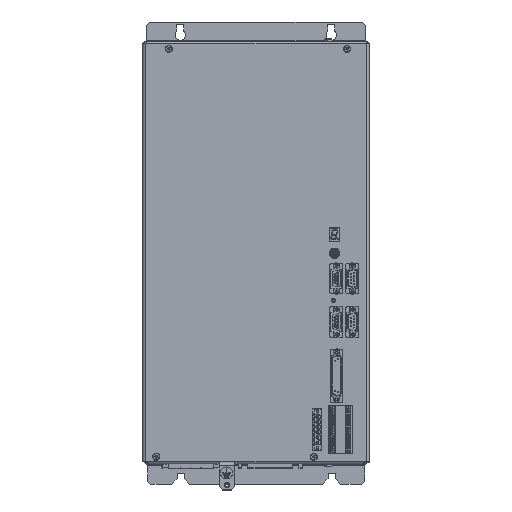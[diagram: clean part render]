
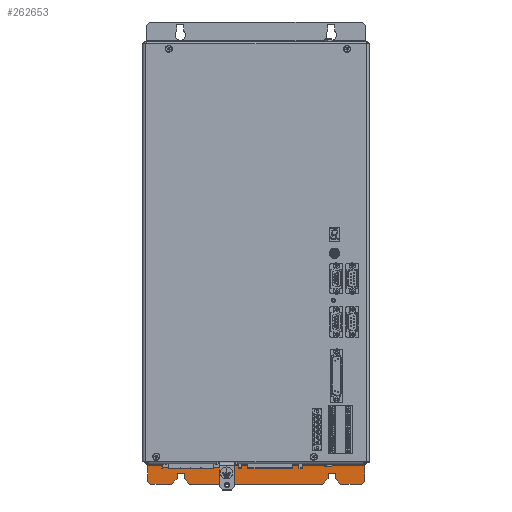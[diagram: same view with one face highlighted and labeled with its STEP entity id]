
A CAD part, top view. The second image highlights one B-rep face of the part: STEP entity #262653.
In plain terms, the highlighted planar face has unit normal (0, 0, 1).
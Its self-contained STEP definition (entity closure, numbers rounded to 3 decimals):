
#60 = ORIENTED_EDGE ( 'NONE', *, *, #218395, .T. ) ;
#252 = VECTOR ( 'NONE', #40938, 1000. ) ;
#3798 = CARTESIAN_POINT ( 'NONE',  ( 140.25, -9.5, -197.5 ) ) ;
#7183 = LINE ( 'NONE', #38119, #252 ) ;
#9554 = CARTESIAN_POINT ( 'NONE',  ( 169.5, 0., -197.5 ) ) ;
#11434 = DIRECTION ( 'NONE',  ( 0.707, 0.707, 0. ) ) ;
#11621 = VECTOR ( 'NONE', #191598, 1000. ) ;
#12050 = CARTESIAN_POINT ( 'NONE',  ( 133.25, -9.5, -197.5 ) ) ;
#14487 = EDGE_CURVE ( 'NONE', #247309, #71692, #7183, .T. ) ;
#14851 = CARTESIAN_POINT ( 'NONE',  ( -9.75, -14.5, -197.5 ) ) ;
#16274 = DIRECTION ( 'NONE',  ( -0.707, 0.707, 0. ) ) ;
#18426 = CARTESIAN_POINT ( 'NONE',  ( 140.25, -14.5, -197.5 ) ) ;
#21424 = VERTEX_POINT ( 'NONE', #12050 ) ;
#21510 = EDGE_CURVE ( 'NONE', #26766, #67197, #261189, .T. ) ;
#22474 = CARTESIAN_POINT ( 'NONE',  ( 165.5, -20., -197.5 ) ) ;
#24473 = EDGE_CURVE ( 'NONE', #84376, #127111, #142752, .T. ) ;
#25822 = DIRECTION ( 'NONE',  ( 0., 1., 0. ) ) ;
#25970 = ORIENTED_EDGE ( 'NONE', *, *, #132665, .F. ) ;
#26766 = VERTEX_POINT ( 'NONE', #139383 ) ;
#27371 = ORIENTED_EDGE ( 'NONE', *, *, #273006, .T. ) ;
#34828 = DIRECTION ( 'NONE',  ( 0., -1., 0. ) ) ;
#38119 = CARTESIAN_POINT ( 'NONE',  ( -16.75, -14.5, -197.5 ) ) ;
#39038 = LINE ( 'NONE', #253633, #80468 ) ;
#40938 = DIRECTION ( 'NONE',  ( -0.707, -0.707, 0. ) ) ;
#44551 = LINE ( 'NONE', #9554, #154741 ) ;
#44787 = LINE ( 'NONE', #209052, #165267 ) ;
#46478 = VECTOR ( 'NONE', #11434, 1000. ) ;
#50572 = LINE ( 'NONE', #18426, #261229 ) ;
#54464 = VECTOR ( 'NONE', #16274, 1000. ) ;
#57371 = LINE ( 'NONE', #135441, #191532 ) ;
#57497 = EDGE_CURVE ( 'NONE', #117824, #252485, #180083, .T. ) ;
#58237 = EDGE_CURVE ( 'NONE', #117824, #282847, #264597, .T. ) ;
#59131 = DIRECTION ( 'NONE',  ( 0., 1., 0. ) ) ;
#59720 = VECTOR ( 'NONE', #134930, 1000. ) ;
#62190 = LINE ( 'NONE', #3798, #110354 ) ;
#63554 = CARTESIAN_POINT ( 'NONE',  ( -16.75, -9.5, -197.5 ) ) ;
#67197 = VERTEX_POINT ( 'NONE', #101850 ) ;
#71692 = VERTEX_POINT ( 'NONE', #94561 ) ;
#74511 = CARTESIAN_POINT ( 'NONE',  ( -9.75, -9.5, -197.5 ) ) ;
#75486 = CARTESIAN_POINT ( 'NONE',  ( -9.75, -9.5, -197.5 ) ) ;
#77122 = DIRECTION ( 'NONE',  ( 0., -1., 0. ) ) ;
#79330 = CARTESIAN_POINT ( 'NONE',  ( 140.25, -9.5, -197.5 ) ) ;
#79456 = DIRECTION ( 'NONE',  ( 1., 0., 0. ) ) ;
#80468 = VECTOR ( 'NONE', #34828, 1000. ) ;
#84376 = VERTEX_POINT ( 'NONE', #156582 ) ;
#85890 = LINE ( 'NONE', #147606, #275803 ) ;
#92542 = CARTESIAN_POINT ( 'NONE',  ( -46.946, -1.5, -197.5 ) ) ;
#94561 = CARTESIAN_POINT ( 'NONE',  ( -22.25, -20., -197.5 ) ) ;
#98858 = CARTESIAN_POINT ( 'NONE',  ( 169.5, -17., -197.5 ) ) ;
#99346 = ORIENTED_EDGE ( 'NONE', *, *, #258785, .F. ) ;
#101850 = CARTESIAN_POINT ( 'NONE',  ( 140.25, -14.5, -197.5 ) ) ;
#106565 = CARTESIAN_POINT ( 'NONE',  ( 133.25, -14.5, -197.5 ) ) ;
#106747 = CARTESIAN_POINT ( 'NONE',  ( 165.5, -20., -197.5 ) ) ;
#107262 = ORIENTED_EDGE ( 'NONE', *, *, #188071, .F. ) ;
#107775 = AXIS2_PLACEMENT_3D ( 'NONE', #215146, #191910, #169786 ) ;
#109023 = CARTESIAN_POINT ( 'NONE',  ( 133.25, -14.5, -197.5 ) ) ;
#110354 = VECTOR ( 'NONE', #242757, 1000. ) ;
#113975 = LINE ( 'NONE', #208121, #210607 ) ;
#114663 = EDGE_CURVE ( 'NONE', #117497, #281278, #243362, .T. ) ;
#116091 = ORIENTED_EDGE ( 'NONE', *, *, #239723, .T. ) ;
#117497 = VERTEX_POINT ( 'NONE', #74511 ) ;
#117798 = FACE_OUTER_BOUND ( 'NONE', #176356, .T. ) ;
#117824 = VERTEX_POINT ( 'NONE', #155008 ) ;
#124127 = VERTEX_POINT ( 'NONE', #255870 ) ;
#124444 = ORIENTED_EDGE ( 'NONE', *, *, #21510, .F. ) ;
#127111 = VERTEX_POINT ( 'NONE', #98858 ) ;
#130864 = DIRECTION ( 'NONE',  ( 0., 1., 0. ) ) ;
#131577 = ORIENTED_EDGE ( 'NONE', *, *, #178750, .F. ) ;
#132665 = EDGE_CURVE ( 'NONE', #220509, #137351, #57371, .T. ) ;
#134930 = DIRECTION ( 'NONE',  ( 1., 0., 0. ) ) ;
#135441 = CARTESIAN_POINT ( 'NONE',  ( -46., -20., -197.5 ) ) ;
#137238 = LINE ( 'NONE', #92542, #189001 ) ;
#137351 = VERTEX_POINT ( 'NONE', #174926 ) ;
#139383 = CARTESIAN_POINT ( 'NONE',  ( 145.75, -20., -197.5 ) ) ;
#142752 = LINE ( 'NONE', #160600, #46478 ) ;
#147606 = CARTESIAN_POINT ( 'NONE',  ( 165.5, -20., -197.5 ) ) ;
#150370 = ORIENTED_EDGE ( 'NONE', *, *, #24473, .T. ) ;
#150649 = VERTEX_POINT ( 'NONE', #106565 ) ;
#152609 = LINE ( 'NONE', #106747, #11621 ) ;
#154741 = VECTOR ( 'NONE', #164474, 1000. ) ;
#155008 = CARTESIAN_POINT ( 'NONE',  ( -4.25, -20., -197.5 ) ) ;
#156582 = CARTESIAN_POINT ( 'NONE',  ( 166.5, -20., -197.5 ) ) ;
#159324 = VECTOR ( 'NONE', #59131, 1000. ) ;
#160105 = LINE ( 'NONE', #109023, #225772 ) ;
#160462 = EDGE_CURVE ( 'NONE', #150649, #252485, #160105, .T. ) ;
#160600 = CARTESIAN_POINT ( 'NONE',  ( 166.5, -20., -197.5 ) ) ;
#163554 = ORIENTED_EDGE ( 'NONE', *, *, #163681, .T. ) ;
#163681 = EDGE_CURVE ( 'NONE', #26766, #84376, #85890, .T. ) ;
#163976 = DIRECTION ( 'NONE',  ( -1., 0., 0. ) ) ;
#164474 = DIRECTION ( 'NONE',  ( 0., 1., 0. ) ) ;
#164566 = ORIENTED_EDGE ( 'NONE', *, *, #14487, .F. ) ;
#165267 = VECTOR ( 'NONE', #277569, 1000. ) ;
#169786 = DIRECTION ( 'NONE',  ( 0., 1., 0. ) ) ;
#171667 = PLANE ( 'NONE',  #107775 ) ;
#173364 = EDGE_CURVE ( 'NONE', #137351, #124127, #137238, .T. ) ;
#174926 = CARTESIAN_POINT ( 'NONE',  ( -46., -1.5, -197.5 ) ) ;
#176045 = ORIENTED_EDGE ( 'NONE', *, *, #160462, .F. ) ;
#176356 = EDGE_LOOP ( 'NONE', ( #163554, #150370, #60, #285199, #25970, #116091, #27371, #164566, #131577, #277553, #107262, #188826, #210766, #176045, #197309, #99346, #276255, #124444 ) ) ;
#178207 = CARTESIAN_POINT ( 'NONE',  ( 145.75, -20., -197.5 ) ) ;
#178750 = EDGE_CURVE ( 'NONE', #281278, #247309, #39038, .T. ) ;
#180083 = LINE ( 'NONE', #22474, #59720 ) ;
#181251 = VECTOR ( 'NONE', #163976, 1000. ) ;
#188071 = EDGE_CURVE ( 'NONE', #282847, #117497, #235267, .T. ) ;
#188826 = ORIENTED_EDGE ( 'NONE', *, *, #58237, .F. ) ;
#189001 = VECTOR ( 'NONE', #189413, 1000. ) ;
#189413 = DIRECTION ( 'NONE',  ( 1., 0., 0. ) ) ;
#191532 = VECTOR ( 'NONE', #25822, 1000. ) ;
#191598 = DIRECTION ( 'NONE',  ( 1., 0., 0. ) ) ;
#191910 = DIRECTION ( 'NONE',  ( 0., 0., -1. ) ) ;
#197309 = ORIENTED_EDGE ( 'NONE', *, *, #267688, .F. ) ;
#201689 = CARTESIAN_POINT ( 'NONE',  ( -46., -17., -197.5 ) ) ;
#206130 = CARTESIAN_POINT ( 'NONE',  ( -9.75, -14.5, -197.5 ) ) ;
#207915 = DIRECTION ( 'NONE',  ( -0.707, 0.707, 0. ) ) ;
#208121 = CARTESIAN_POINT ( 'NONE',  ( 133.25, -9.5, -197.5 ) ) ;
#209052 = CARTESIAN_POINT ( 'NONE',  ( -43., -20., -197.5 ) ) ;
#210607 = VECTOR ( 'NONE', #77122, 1000. ) ;
#210766 = ORIENTED_EDGE ( 'NONE', *, *, #57497, .T. ) ;
#215146 = CARTESIAN_POINT ( 'NONE',  ( 165.5, 0., -197.5 ) ) ;
#218395 = EDGE_CURVE ( 'NONE', #127111, #124127, #44551, .T. ) ;
#218979 = CARTESIAN_POINT ( 'NONE',  ( -16.75, -14.5, -197.5 ) ) ;
#220509 = VERTEX_POINT ( 'NONE', #201689 ) ;
#225772 = VECTOR ( 'NONE', #237420, 1000. ) ;
#226812 = VERTEX_POINT ( 'NONE', #269053 ) ;
#229149 = CARTESIAN_POINT ( 'NONE',  ( -4.25, -20., -197.5 ) ) ;
#235267 = LINE ( 'NONE', #14851, #159324 ) ;
#237026 = VECTOR ( 'NONE', #207915, 1000. ) ;
#237420 = DIRECTION ( 'NONE',  ( -0.707, -0.707, 0. ) ) ;
#239222 = VERTEX_POINT ( 'NONE', #79330 ) ;
#239723 = EDGE_CURVE ( 'NONE', #220509, #226812, #44787, .T. ) ;
#242757 = DIRECTION ( 'NONE',  ( -1., 0., 0. ) ) ;
#243362 = LINE ( 'NONE', #75486, #181251 ) ;
#247309 = VERTEX_POINT ( 'NONE', #218979 ) ;
#252485 = VERTEX_POINT ( 'NONE', #270209 ) ;
#253633 = CARTESIAN_POINT ( 'NONE',  ( -16.75, -9.5, -197.5 ) ) ;
#255870 = CARTESIAN_POINT ( 'NONE',  ( 169.5, -1.5, -197.5 ) ) ;
#258785 = EDGE_CURVE ( 'NONE', #239222, #21424, #62190, .T. ) ;
#261189 = LINE ( 'NONE', #178207, #54464 ) ;
#261229 = VECTOR ( 'NONE', #130864, 1000. ) ;
#262653 = ADVANCED_FACE ( 'NONE', ( #117798 ), #171667, .F. ) ;
#264597 = LINE ( 'NONE', #229149, #237026 ) ;
#267688 = EDGE_CURVE ( 'NONE', #21424, #150649, #113975, .T. ) ;
#269053 = CARTESIAN_POINT ( 'NONE',  ( -43., -20., -197.5 ) ) ;
#270209 = CARTESIAN_POINT ( 'NONE',  ( 127.75, -20., -197.5 ) ) ;
#273006 = EDGE_CURVE ( 'NONE', #226812, #71692, #152609, .T. ) ;
#275803 = VECTOR ( 'NONE', #79456, 1000. ) ;
#276255 = ORIENTED_EDGE ( 'NONE', *, *, #284888, .F. ) ;
#277553 = ORIENTED_EDGE ( 'NONE', *, *, #114663, .F. ) ;
#277569 = DIRECTION ( 'NONE',  ( 0.707, -0.707, 0. ) ) ;
#281278 = VERTEX_POINT ( 'NONE', #63554 ) ;
#282847 = VERTEX_POINT ( 'NONE', #206130 ) ;
#284888 = EDGE_CURVE ( 'NONE', #67197, #239222, #50572, .T. ) ;
#285199 = ORIENTED_EDGE ( 'NONE', *, *, #173364, .F. ) ;
